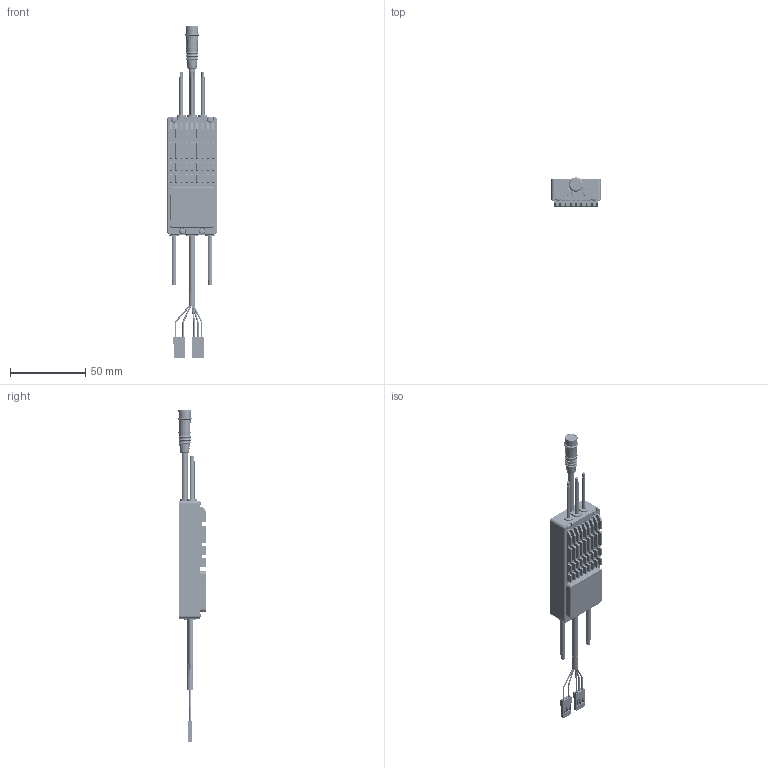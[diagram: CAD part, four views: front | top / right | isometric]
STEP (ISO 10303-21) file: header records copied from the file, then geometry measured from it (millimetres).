
FILE_DESCRIPTION((''),'2;1');
FILE_NAME('HW5146-IPC-DAIKE-3D','2026-06-18T11:08:18',('Lenovo'),(''),'CREO PARAMETRIC BY PTC INC, 2021284','CREO PARAMETRIC BY PTC INC, 2021284','');
FILE_SCHEMA(('CONFIG_CONTROL_DESIGN','SHAPE_APPEARANCE_LAYERS_GROUPS'));
Products named in the file (1): HW5146-IPC-DAIKE-3D
Bounding box: 33 x 19.25 x 221.16 mm (x, y, z)
Volume: 28447 mm3; surface area: 39233.6 mm2
Topology: 53 solids, 53 shells, 23861 faces, 63267 edges, 40326 vertices
Faces by surface type: plane 12125, extrusion 7319, cylinder 3242, sphere 904, cone 101, bspline 92, torus 78
Entity records: 1164515 total; most frequent: CARTESIAN_POINT 505731, ORIENTED_EDGE 124876, DIRECTION 93892, EDGE_CURVE 62438, VECTOR 47644, VERTEX_POINT 40326, LINE 40325, EDGE_LOOP 25940
